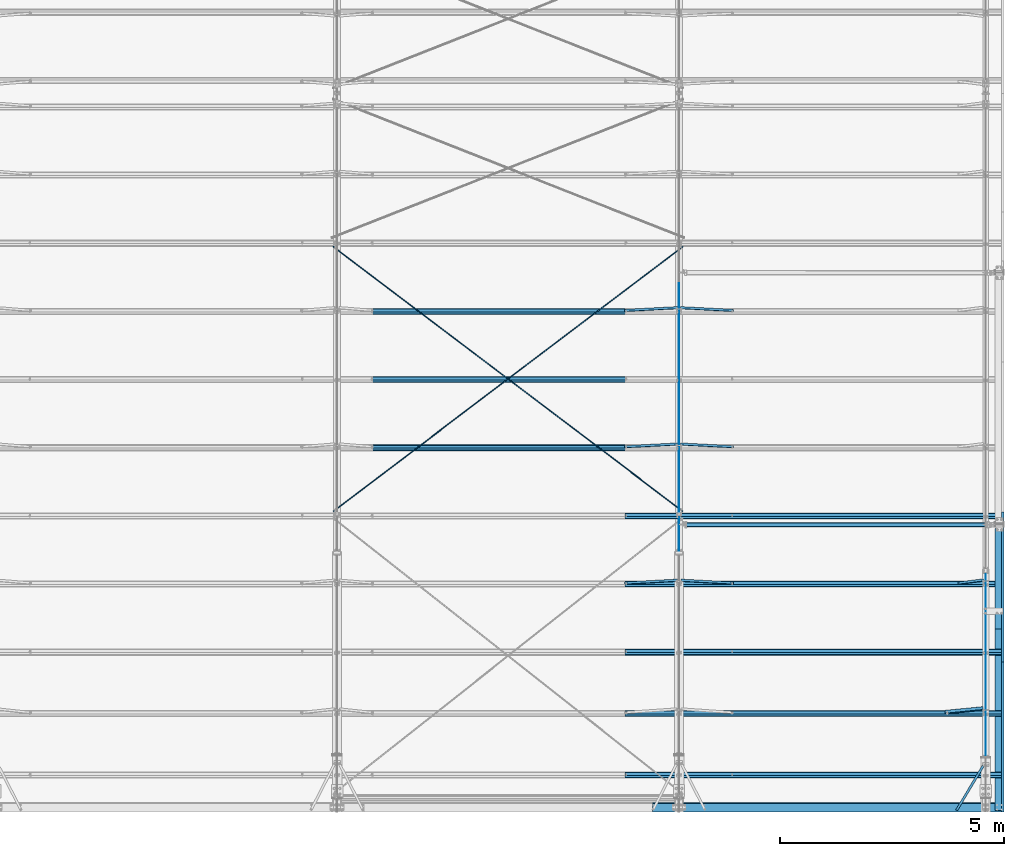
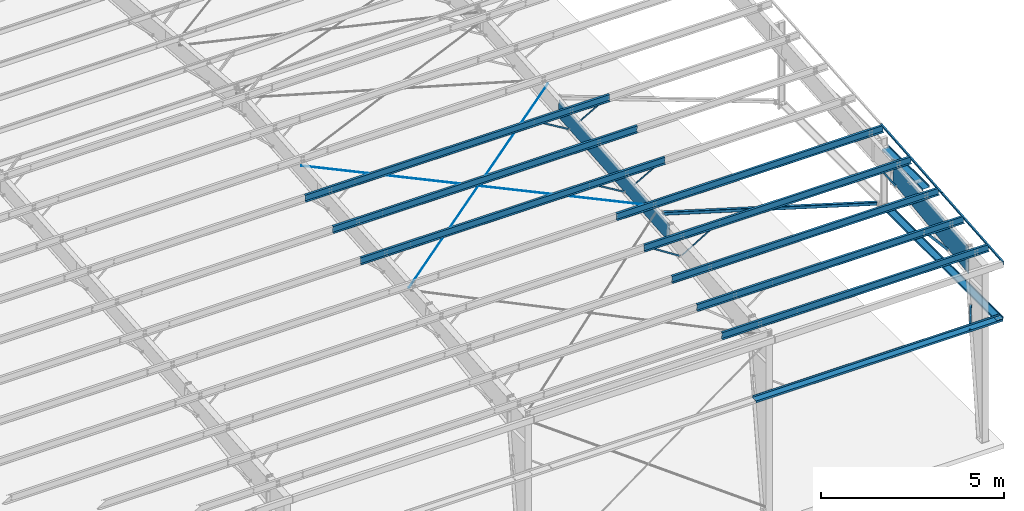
# One storey, part 17 of 185: 19 beams, 8 members, 27 elements without a shape of their own.
"""IFC2X3 building model written with IfcOpenShell, lengths in millimetres."""

from ifc_helpers import new_model, si_unit, frame, origin_with_axes, origin_2d_with_axis, place, context, subcontext, project, spatial, polyline, rectangle, hollow_rectangle, circle, l_section, outline, extrude, clip, halfspace, material, type_object, element, aggregate, save


model = new_model("IFC2X3")

# Units and contexts
model_context = context("Model", 3, precision=1e-05, world=origin_with_axes())
body_context = subcontext(model_context, "Body", "Model", "MODEL_VIEW")
ifc_project = project(units=[si_unit("LENGTHUNIT", "METRE", prefix="MILLI"), si_unit("AREAUNIT", "SQUARE_METRE"), si_unit("VOLUMEUNIT", "CUBIC_METRE"), si_unit("MASSUNIT", "GRAM", prefix="KILO"), si_unit("TIMEUNIT", "SECOND"), si_unit("PLANEANGLEUNIT", "RADIAN"), si_unit("SOLIDANGLEUNIT", "STERADIAN"), si_unit("THERMODYNAMICTEMPERATUREUNIT", "DEGREE_CELSIUS"), si_unit("LUMINOUSINTENSITYUNIT", "LUMEN")], contexts=[model_context])

# Site, building, storey
site_placement = place(None, origin_with_axes())
site = spatial("IfcSite", under=ifc_project, at=site_placement, Name="Undefined", CompositionType="ELEMENT")
building_placement = place(site_placement, origin_with_axes())
building = spatial("IfcBuilding", under=site, at=building_placement, Name="Undefined", CompositionType="ELEMENT")
storey_placement = place(building_placement, origin_with_axes())
storey = spatial("IfcBuildingStorey", under=building, at=storey_placement, Name="Undefined", CompositionType="ELEMENT", Elevation=0.0)

# Assembly, beam
assembly_1_placement = place(storey_placement, origin_with_axes())
assembly_1 = element("IfcElementAssembly", 1, at=assembly_1_placement, inside=storey, Name="Steel Assembly", AssemblyPlace="NOTDEFINED", PredefinedType="RIGID_FRAME")
ifc_material = material(Name="STEEL/55")
beam_type_1 = type_object("IfcBeamType", Name="8Z15", PredefinedType="NOTDEFINED")
beam_1_placement = place(assembly_1_placement, frame((30099.0, 8113.01202030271, 6670.13216896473), z_axis=(0.0, 0.0830454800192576, -0.996545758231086), x_axis=(1.0, 0.0, 0.0)))
beam_1 = element("IfcBeam", 2, at=beam_1_placement, type_object=beam_type_1, material=ifc_material, Name="Purlin", ObjectType="8Z15", context=body_context, shape_type="Clipping", body=[
    clip(clip(extrude(outline(polyline([(-75.75, 87.0100021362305), (-63.5, 101.599998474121), (1.5900000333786, 101.599998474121), (1.5900000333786, -98.4199981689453), (62.0200004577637, -98.4199981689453), (73.3099975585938, -84.9700012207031), (75.7399978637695, -87.0100021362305), (63.5, -101.599998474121), (-1.5900000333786, -101.599998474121), (-1.5900000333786, 98.4199981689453), (-62.0200004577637, 98.4199981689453), (-73.3099975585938, 84.9700012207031), (-75.75, 87.0100021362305)])), frame((8826.5, 0.0, 0.0), z_axis=(-1.0, 0.0, 0.0), x_axis=(0.0, -1.0, 0.0)), (0.0, 0.0, 1.0), 9626.6), halfspace(frame((8826.5, 2.91402102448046e-09, -101.600000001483), z_axis=(-1.0, 0.0, 0.0), x_axis=(0.0, 0.0, 1.0)), True)), halfspace(frame((-800.1, 2.91402102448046e-09, -101.600000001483), z_axis=(-1.0, 0.0, 0.0), x_axis=(0.0, 0.0, 1.0)), False)),
])
aggregate(assembly_1, [beam_1])

assembly_2_placement = place(storey_placement, origin_with_axes())
assembly_2 = element("IfcElementAssembly", 3, at=assembly_2_placement, inside=storey, Name="Steel Assembly", AssemblyPlace="NOTDEFINED", PredefinedType="RIGID_FRAME")
beam_2_placement = place(assembly_2_placement, frame((30099.0, 9631.74775584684, 6796.69348051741), z_axis=(0.0, 0.0830454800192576, -0.996545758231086), x_axis=(1.0, 0.0, 0.0)))
beam_2 = element("IfcBeam", 4, at=beam_2_placement, type_object=beam_type_1, material=ifc_material, Name="Purlin", ObjectType="8Z15", context=body_context, shape_type="Clipping", body=[
    clip(clip(extrude(outline(polyline([(-75.75, 87.0100021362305), (-63.5, 101.599998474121), (1.5900000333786, 101.599998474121), (1.5900000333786, -98.4199981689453), (62.0200004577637, -98.4199981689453), (73.3099975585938, -84.9700012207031), (75.7399978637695, -87.0100021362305), (63.5, -101.599998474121), (-1.5900000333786, -101.599998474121), (-1.5900000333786, 98.4199981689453), (-62.0200004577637, 98.4199981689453), (-73.3099975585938, 84.9700012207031), (-75.75, 87.0100021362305)])), frame((8826.5, 0.0, 0.0), z_axis=(-1.0, 0.0, 0.0), x_axis=(0.0, -1.0, 0.0)), (0.0, 0.0, 1.0), 9626.6), halfspace(frame((8826.5, 2.91402102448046e-09, -101.600000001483), z_axis=(-1.0, 0.0, 0.0), x_axis=(0.0, 0.0, 1.0)), True)), halfspace(frame((-800.1, 2.91402102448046e-09, -101.600000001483), z_axis=(-1.0, 0.0, 0.0), x_axis=(0.0, 0.0, 1.0)), False)),
])
aggregate(assembly_2, [beam_2])

assembly_3_placement = place(storey_placement, origin_with_axes())
assembly_3 = element("IfcElementAssembly", 5, at=assembly_3_placement, inside=storey, Name="Steel Assembly", AssemblyPlace="NOTDEFINED", PredefinedType="RIGID_FRAME")
beam_3_placement = place(assembly_3_placement, frame((30099.0, 11150.483491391, 6923.2547920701), z_axis=(0.0, 0.0830454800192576, -0.996545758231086), x_axis=(1.0, 0.0, 0.0)))
beam_3 = element("IfcBeam", 6, at=beam_3_placement, type_object=beam_type_1, material=ifc_material, Name="Purlin", ObjectType="8Z15", context=body_context, shape_type="Clipping", body=[
    clip(clip(extrude(outline(polyline([(-75.75, 87.0100021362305), (-63.5, 101.599998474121), (1.5900000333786, 101.599998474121), (1.5900000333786, -98.4199981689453), (62.0200004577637, -98.4199981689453), (73.3099975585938, -84.9700012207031), (75.7399978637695, -87.0100021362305), (63.5, -101.599998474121), (-1.5900000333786, -101.599998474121), (-1.5900000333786, 98.4199981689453), (-62.0200004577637, 98.4199981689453), (-73.3099975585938, 84.9700012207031), (-75.75, 87.0100021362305)])), frame((8826.5, 0.0, 0.0), z_axis=(-1.0, 0.0, 0.0), x_axis=(0.0, -1.0, 0.0)), (0.0, 0.0, 1.0), 9626.6), halfspace(frame((8826.5, 2.91402102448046e-09, -101.600000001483), z_axis=(-1.0, 0.0, 0.0), x_axis=(0.0, 0.0, 1.0)), True)), halfspace(frame((-800.1, 2.91402102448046e-09, -101.600000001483), z_axis=(-1.0, 0.0, 0.0), x_axis=(0.0, 0.0, 1.0)), False)),
])
aggregate(assembly_3, [beam_3])

assembly_4_placement = place(storey_placement, origin_with_axes())
assembly_4 = element("IfcElementAssembly", 7, at=assembly_4_placement, inside=storey, Name="Steel Assembly", AssemblyPlace="NOTDEFINED", PredefinedType="RIGID_FRAME")
beam_type_2 = type_object("IfcBeamType", Name="HSS4X4X1/4", PredefinedType="NOTDEFINED")
beam_4_placement = place(assembly_4_placement, frame((44607.9887283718, 6397.62500009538, 4282.83984571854), z_axis=(0.287551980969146, 0.0, 0.957765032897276), x_axis=(-0.957765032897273, 0.0, 0.287551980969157)))
beam_4 = element("IfcBeam", 8, at=beam_4_placement, type_object=beam_type_2, material=ifc_material, Name="PIPE", ObjectType="HSS4X4X1/4", context=body_context, shape_type="SweptSolid", body=[
    extrude(hollow_rectangle(XDim=101.6, YDim=101.6, WallThickness=6.35, InnerFilletRadius=6.3499, OuterFilletRadius=12.6999, at=origin_2d_with_axis()), frame((7034.3103877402, 9.09494701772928e-13, 0.0), z_axis=(-1.0, 0.0, 0.0), x_axis=(0.0, -1.0, 0.0)), (0.0, 0.0, 1.0), 7034.3),
])
aggregate(assembly_4, [beam_4])

assembly_5_placement = place(storey_placement, origin_with_axes())
assembly_5 = element("IfcElementAssembly", 9, at=assembly_5_placement, inside=storey, Name="Steel Assembly", AssemblyPlace="NOTDEFINED", PredefinedType="RIGID_FRAME")
beam_type_3 = type_object("IfcBeamType", Name="FB-", PredefinedType="NOTDEFINED")
beam_5_placement = place(assembly_5_placement, frame((44539.605493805, 1048.90286488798, 4163.6494642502), z_axis=(-0.858185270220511, 0.513340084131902, 0.0), x_axis=(-0.513340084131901, -0.858185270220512, 0.0)))
beam_5 = element("IfcBeam", 10, at=beam_5_placement, type_object=beam_type_3, material=ifc_material, Name="2X2 FLANGE BRACE X 60", ObjectType="FB-", context=body_context, shape_type="SweptSolid", body=[
    extrude(outline(polyline([(1.5900000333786, 1.59000003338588), (50.7999992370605, 1.59000003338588), (50.7999992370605, 7.27595761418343e-12), (0.0, 0.0), (0.0, 50.7999992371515), (1.5900000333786, 50.7999992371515), (1.5900000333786, 1.59000003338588)])), frame((1196.56821064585, 0.0, 0.0), z_axis=(-1.0, 0.0, 0.0), x_axis=(0.0, -1.0, 0.0)), (0.0, 0.0, 1.0), 1196.6),
])
aggregate(assembly_5, [beam_5])

assembly_6_placement = place(storey_placement, origin_with_axes())
assembly_6 = element("IfcElementAssembly", 11, at=assembly_6_placement, inside=storey, Name="Steel Assembly", AssemblyPlace="NOTDEFINED", PredefinedType="RIGID_FRAME")
beam_type_4 = type_object("IfcBeamType", Name="8Z16", PredefinedType="NOTDEFINED")
beam_6_placement = place(assembly_6_placement, frame((44856.4, 4064.0, 6096.0), z_axis=(-1.0, 0.0, 0.0), x_axis=(0.0, 1.0, 0.0)))
beam_6 = element("IfcBeam", 12, at=beam_6_placement, type_object=beam_type_4, material=ifc_material, Name="Girt", ObjectType="8Z16", context=body_context, shape_type="Clipping", body=[
    clip(clip(extrude(outline(polyline([(73.3099975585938, -84.9700012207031), (75.7399978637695, -87.0100021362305), (63.5, -101.599998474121), (-1.5900000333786, -101.599998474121), (-1.5900000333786, 98.4199981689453), (-62.0200004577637, 98.4199981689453), (-73.3099975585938, 84.9700012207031), (-75.75, 87.0100021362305), (-63.5, 101.599998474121), (1.5900000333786, 101.599998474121), (1.5900000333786, -98.4199981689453), (62.0200004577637, -98.4199981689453), (73.3099975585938, -84.9700012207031)])), frame((2336.7998046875, 0.0, 0.0), z_axis=(-1.0, 0.0, 0.0), x_axis=(0.0, -1.0, 0.0)), (0.0, 0.0, 1.0), 2324.1), halfspace(frame((2247.90000000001, -74.5286799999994, -101.599999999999), z_axis=(1.0, 0.0, 0.0), x_axis=(0.0, 0.0, 1.0)), False)), halfspace(frame((12.6999999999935, 0.0, -101.599693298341), z_axis=(-1.0, 0.0, 0.0), x_axis=(0.0, 1.0, 0.0)), False)),
])
aggregate(assembly_6, [beam_6])

assembly_7_placement = place(storey_placement, origin_with_axes())
assembly_7 = element("IfcElementAssembly", 13, at=assembly_7_placement, inside=storey, Name="Steel Assembly", AssemblyPlace="NOTDEFINED", PredefinedType="RIGID_FRAME")
beam_7_placement = place(assembly_7_placement, frame((44932.6, 101.6, 4165.6), z_axis=(0.0, 1.0, 0.0), x_axis=(-1.0, 0.0, 0.0)))
beam_7 = element("IfcBeam", 14, at=beam_7_placement, type_object=beam_type_4, material=ifc_material, Name="Girt", ObjectType="8Z16", context=body_context, shape_type="Clipping", body=[
    clip(extrude(outline(polyline([(73.3099975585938, -84.9700012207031), (75.7399978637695, -87.0100021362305), (63.5, -101.599998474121), (-1.5900000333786, -101.599998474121), (-1.5900000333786, 98.4199981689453), (-62.0200004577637, 98.4199981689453), (-73.3099975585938, 84.9700012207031), (-75.75, 87.0100021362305), (-63.5, 101.599998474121), (1.5900000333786, 101.599998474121), (1.5900000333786, -98.4199981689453), (62.0200004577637, -98.4199981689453), (73.3099975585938, -84.9700012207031)])), frame((7810.5, 0.0, 0.0), z_axis=(-1.0, 0.0, 0.0), x_axis=(0.0, -1.0, 0.0)), (0.0, 0.0, 1.0), 7810.5), halfspace(frame((7810.5, 0.0, -101.6), z_axis=(-1.0, 0.0, 0.0), x_axis=(0.0, -1.0, 0.0)), True)),
])
aggregate(assembly_7, [beam_7])

# Assembly, member
assembly_8_placement = place(storey_placement, origin_with_axes())
assembly_8 = element("IfcElementAssembly", 15, at=assembly_8_placement, inside=storey, Name="Steel Assembly", AssemblyPlace="NOTDEFINED", PredefinedType="RIGID_FRAME")
member_type_1 = type_object("IfcMemberType", Name="FB-", PredefinedType="NOTDEFINED")
member_1_placement = place(assembly_8_placement, frame((37680.9126795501, 11208.1027534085, 6231.82364778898), z_axis=(0.530152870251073, -0.070414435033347, 0.844973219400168), x_axis=(-0.847902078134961, -0.0440268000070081, 0.528321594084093)))
member_1 = element("IfcMember", 16, at=member_1_placement, type_object=member_type_1, material=ifc_material, Name="2X2 FLANGE BRACE X 48", ObjectType="FB-", context=body_context, shape_type="SweptSolid", body=[
    extrude(outline(polyline([(1.5900000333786, 1.59000003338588), (50.7999992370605, 1.59000003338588), (50.7999992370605, 7.27595761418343e-12), (0.0, 0.0), (0.0, 50.7999992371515), (1.5900000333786, 50.7999992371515), (1.5900000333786, 1.59000003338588)])), frame((1389.32938756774, -1.81898940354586e-12, 7.71232737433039e-14), z_axis=(-1.0, 0.0, 0.0), x_axis=(0.0, -1.0, 0.0)), (0.0, 0.0, 1.0), 1389.3),
])
aggregate(assembly_8, [member_1])

assembly_9_placement = place(storey_placement, origin_with_axes())
assembly_9 = element("IfcElementAssembly", 17, at=assembly_9_placement, inside=storey, Name="Steel Assembly", AssemblyPlace="NOTDEFINED", PredefinedType="RIGID_FRAME")
member_2_placement = place(assembly_9_placement, frame((37680.9126795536, 8170.63128227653, 5978.70102517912), z_axis=(0.530152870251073, -0.070414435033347, 0.844973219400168), x_axis=(-0.847902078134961, -0.0440268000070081, 0.528321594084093)))
member_2 = element("IfcMember", 18, at=member_2_placement, type_object=member_type_1, material=ifc_material, Name="2X2 FLANGE BRACE X 48", ObjectType="FB-", context=body_context, shape_type="SweptSolid", body=[
    extrude(outline(polyline([(1.5900000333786, 1.59000003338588), (50.7999992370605, 1.59000003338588), (50.7999992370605, 7.27595761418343e-12), (0.0, 0.0), (0.0, 50.7999992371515), (1.5900000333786, 50.7999992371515), (1.5900000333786, 1.59000003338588)])), frame((1389.32938756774, -1.81898940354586e-12, 7.71232737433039e-14), z_axis=(-1.0, 0.0, 0.0), x_axis=(0.0, -1.0, 0.0)), (0.0, 0.0, 1.0), 1389.3),
])
aggregate(assembly_9, [member_2])

assembly_10_placement = place(storey_placement, origin_with_axes())
assembly_10 = element("IfcElementAssembly", 19, at=assembly_10_placement, inside=storey, Name="Steel Assembly", AssemblyPlace="NOTDEFINED", PredefinedType="RIGID_FRAME")
member_3_placement = place(assembly_10_placement, frame((44497.4139306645, 5142.47605000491, 5613.78353608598), z_axis=(0.836906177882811, -0.045454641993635, 0.545455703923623), x_axis=(-0.547346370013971, -0.0695012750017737, 0.834015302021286)))
member_3 = element("IfcMember", 20, at=member_3_placement, type_object=member_type_1, material=ifc_material, Name="2X2 FLANGE BRACE X 48", ObjectType="FB-", context=body_context, shape_type="SweptSolid", body=[
    extrude(outline(polyline([(1.5900000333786, 1.59000003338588), (50.7999992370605, 1.59000003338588), (50.7999992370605, 7.27595761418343e-12), (0.0, 0.0), (0.0, 50.7999992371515), (1.5900000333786, 50.7999992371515), (1.5900000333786, 1.59000003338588)])), frame((1032.57092025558, -6.26704952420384e-13, -9.09494701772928e-13), z_axis=(-1.0, 0.0, 0.0), x_axis=(0.0, -1.0, 0.0)), (0.0, 0.0, 1.0), 1032.6),
])
aggregate(assembly_10, [member_3])

assembly_11_placement = place(storey_placement, origin_with_axes())
assembly_11 = element("IfcElementAssembly", 21, at=assembly_11_placement, inside=storey, Name="Steel Assembly", AssemblyPlace="NOTDEFINED", PredefinedType="RIGID_FRAME")
member_4_placement = place(assembly_11_placement, frame((37679.2693687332, 5136.82846064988, 5681.55460828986), z_axis=(0.553384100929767, -0.0691707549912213, 0.830049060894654), x_axis=(-0.832926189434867, -0.0459560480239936, 0.551472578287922)))
member_4 = element("IfcMember", 22, at=member_4_placement, type_object=member_type_1, material=ifc_material, Name="2X2 FLANGE BRACE X 48", ObjectType="FB-", context=body_context, shape_type="SweptSolid", body=[
    extrude(outline(polyline([(1.5900000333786, 1.59000003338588), (50.7999992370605, 1.59000003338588), (50.7999992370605, 7.27595761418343e-12), (0.0, 0.0), (0.0, 50.7999992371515), (1.5900000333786, 50.7999992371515), (1.5900000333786, 1.59000003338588)])), frame((1412.58813181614, 9.09494701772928e-13, -7.8414393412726e-14), z_axis=(-1.0, 0.0, 0.0), x_axis=(0.0, -1.0, 0.0)), (0.0, 0.0, 1.0), 1412.6),
])
aggregate(assembly_11, [member_4])

assembly_12_placement = place(storey_placement, origin_with_axes())
assembly_12 = element("IfcElementAssembly", 23, at=assembly_12_placement, inside=storey, Name="Steel Assembly", AssemblyPlace="NOTDEFINED", PredefinedType="RIGID_FRAME")
member_5_placement = place(assembly_12_placement, frame((37758.7306312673, 5136.8284606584, 5681.55460828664), z_axis=(0.0, 0.996545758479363, 0.0830454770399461), x_axis=(0.832926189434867, -0.0459560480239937, 0.551472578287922)))
member_5 = element("IfcMember", 24, at=member_5_placement, type_object=member_type_1, material=ifc_material, Name="2X2 FLANGE BRACE X 48", ObjectType="FB-", context=body_context, shape_type="SweptSolid", body=[
    extrude(outline(polyline([(1.5900000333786, 1.59000003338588), (50.7999992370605, 1.59000003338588), (50.7999992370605, 7.27595761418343e-12), (0.0, 0.0), (0.0, 50.7999992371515), (1.5900000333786, 50.7999992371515), (1.5900000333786, 1.59000003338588)])), frame((1412.58813181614, 9.09494701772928e-13, -7.8414393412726e-14), z_axis=(-1.0, 0.0, 0.0), x_axis=(0.0, -1.0, 0.0)), (0.0, 0.0, 1.0), 1412.6),
])
aggregate(assembly_12, [member_5])

assembly_13_placement = place(storey_placement, origin_with_axes())
assembly_13 = element("IfcElementAssembly", 25, at=assembly_13_placement, inside=storey, Name="Steel Assembly", AssemblyPlace="NOTDEFINED", PredefinedType="RIGID_FRAME")
member_6_placement = place(assembly_13_placement, frame((37757.0873204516, 11208.1027534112, 6231.82364778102), z_axis=(0.0, 0.996545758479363, 0.0830454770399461), x_axis=(0.847902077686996, -0.044026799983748, 0.528321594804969)))
member_6 = element("IfcMember", 26, at=member_6_placement, type_object=member_type_1, material=ifc_material, Name="2X2 FLANGE BRACE X 48", ObjectType="FB-", context=body_context, shape_type="SweptSolid", body=[
    extrude(outline(polyline([(1.5900000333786, 1.59000003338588), (50.7999992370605, 1.59000003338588), (50.7999992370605, 7.27595761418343e-12), (0.0, 0.0), (0.0, 50.7999992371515), (1.5900000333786, 50.7999992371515), (1.5900000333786, 1.59000003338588)])), frame((1389.32938756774, -1.81898940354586e-12, 7.71232737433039e-14), z_axis=(-1.0, 0.0, 0.0), x_axis=(0.0, -1.0, 0.0)), (0.0, 0.0, 1.0), 1389.3),
])
aggregate(assembly_13, [member_6])

assembly_14_placement = place(storey_placement, origin_with_axes())
assembly_14 = element("IfcElementAssembly", 27, at=assembly_14_placement, inside=storey, Name="Steel Assembly", AssemblyPlace="NOTDEFINED", PredefinedType="RIGID_FRAME")
member_7_placement = place(assembly_14_placement, frame((37757.0873204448, 8170.63128228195, 5978.7010251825), z_axis=(0.0, 0.996545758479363, 0.0830454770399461), x_axis=(0.847902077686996, -0.044026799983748, 0.528321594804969)))
member_7 = element("IfcMember", 28, at=member_7_placement, type_object=member_type_1, material=ifc_material, Name="2X2 FLANGE BRACE X 48", ObjectType="FB-", context=body_context, shape_type="SweptSolid", body=[
    extrude(outline(polyline([(1.5900000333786, 1.59000003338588), (50.7999992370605, 1.59000003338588), (50.7999992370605, 7.27595761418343e-12), (0.0, 0.0), (0.0, 50.7999992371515), (1.5900000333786, 50.7999992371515), (1.5900000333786, 1.59000003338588)])), frame((1389.32938756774, -1.81898940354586e-12, 7.71232737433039e-14), z_axis=(-1.0, 0.0, 0.0), x_axis=(0.0, -1.0, 0.0)), (0.0, 0.0, 1.0), 1389.3),
])
aggregate(assembly_14, [member_7])

# Assembly, beam
assembly_15_placement = place(storey_placement, origin_with_axes())
assembly_15 = element("IfcElementAssembly", 29, at=assembly_15_placement, inside=storey, Name="Steel Assembly", AssemblyPlace="NOTDEFINED", PredefinedType="RIGID_FRAME")
beam_type_5 = type_object("IfcBeamType", Name="RA-1", PredefinedType="NOTDEFINED")
beam_8_placement = place(assembly_15_placement, frame((44958.0, 3341.27766252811, 6373.72645922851), z_axis=(0.0, 0.0830701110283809, -0.99654370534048), x_axis=(0.0, 0.99654370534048, 0.0830701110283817)))
beam_8 = element("IfcBeam", 30, at=beam_8_placement, type_object=beam_type_5, material=ifc_material, Name="STANDARD RAKE ANGLE", ObjectType="RA-1", context=body_context, shape_type="SweptSolid", body=[
    extrude(outline(polyline([(0.0, 0.0), (50.7999992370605, 7.27595761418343e-12), (50.7999992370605, -1.51999998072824), (-1.51999998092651, -1.51999998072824), (-1.51999998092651, 127.000000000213), (0.0, 127.000000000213), (0.0, 0.0)])), frame((3352.80000002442, 0.0, -1.86551885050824e-12), z_axis=(-1.0, 0.0, 0.0), x_axis=(0.0, -1.0, 0.0)), (0.0, 0.0, 1.0), 3352.8),
])
aggregate(assembly_15, [beam_8])

assembly_16_placement = place(storey_placement, origin_with_axes())
assembly_16 = element("IfcElementAssembly", 31, at=assembly_16_placement, inside=storey, Name="Steel Assembly", AssemblyPlace="NOTDEFINED", PredefinedType="RIGID_FRAME")
beam_9_placement = place(assembly_16_placement, frame((44958.0, 0.0659271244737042, 6095.20899262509), z_axis=(0.0, 0.0830701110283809, -0.99654370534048), x_axis=(0.0, 0.99654370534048, 0.0830701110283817)))
beam_9 = element("IfcBeam", 32, at=beam_9_placement, type_object=beam_type_5, material=ifc_material, Name="STANDARD RAKE ANGLE", ObjectType="RA-1", context=body_context, shape_type="SweptSolid", body=[
    extrude(outline(polyline([(0.0, 0.0), (50.7999992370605, 7.27595761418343e-12), (50.7999992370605, -1.51999998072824), (-1.51999998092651, -1.51999998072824), (-1.51999998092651, 127.000000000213), (0.0, 127.000000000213), (0.0, 0.0)])), frame((3352.80000002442, 0.0, -1.86551885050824e-12), z_axis=(-1.0, 0.0, 0.0), x_axis=(0.0, -1.0, 0.0)), (0.0, 0.0, 1.0), 3352.8),
])
aggregate(assembly_16, [beam_9])

# Assembly, member
assembly_17_placement = place(storey_placement, origin_with_axes())
assembly_17 = element("IfcElementAssembly", 33, at=assembly_17_placement, inside=storey, Name="Steel Assembly", AssemblyPlace="NOTDEFINED", PredefinedType="RIGID_FRAME")
member_type_2 = type_object("IfcMemberType", Name="L3X3X1/4", PredefinedType="NOTDEFINED")
member_8_placement = place(assembly_17_placement, frame((44516.2771463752, 2305.48146257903, 5248.86207641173), z_axis=(0.764786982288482, -0.0535048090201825, 0.64205771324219), x_axis=(-0.644283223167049, -0.0635121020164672, 0.762145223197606)))
member_8 = element("IfcMember", 34, at=member_8_placement, type_object=member_type_2, material=ifc_material, Name="MISC STRUCTURAL ANGLE", ObjectType="L3X3X1/4", context=body_context, shape_type="SweptSolid", body=[
    extrude(l_section(Depth=76.2, Width=76.2, Thickness=6.35, FilletRadius=9.525, at=origin_2d_with_axis()), frame((1307.82287484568, 7.2598753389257e-14, 4.3659766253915e-13), z_axis=(-1.0, 0.0, 0.0), x_axis=(0.0, -1.0, 0.0)), (0.0, 0.0, 1.0), 1307.8),
])
aggregate(assembly_17, [member_8])

# Assembly, beam
assembly_18_placement = place(storey_placement, origin_with_axes())
assembly_18 = element("IfcElementAssembly", 35, at=assembly_18_placement, inside=storey, Name="Steel Assembly", AssemblyPlace="NOTDEFINED", PredefinedType="RIGID_FRAME")
beam_type_6 = type_object("IfcBeamType", Name="RB3/4\"", PredefinedType="NOTDEFINED")
beam_10_placement = place(assembly_18_placement, frame((30018.1099223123, 6698.19712904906, 6391.32492276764), z_axis=(-0.0378644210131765, -0.0332332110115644, 0.998730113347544), x_axis=(0.796162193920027, 0.602993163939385, 0.0502494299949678)))
beam_10 = element("IfcBeam", 36, at=beam_10_placement, type_object=beam_type_6, material=ifc_material, Name="ROD BRACE - 3/4", ObjectType="RB3/4\"", context=body_context, shape_type="SweptSolid", body=[
    extrude(circle(Radius=9.525, at=origin_2d_with_axis()), frame((9778.87663663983, 8.40844943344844e-13, -9.09494701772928e-13), z_axis=(-1.0, 0.0, 0.0), x_axis=(0.0, -1.0, 0.0)), (0.0, 0.0, 1.0), 9778.9),
])
aggregate(assembly_18, [beam_10])

assembly_19_placement = place(storey_placement, origin_with_axes())
assembly_19 = element("IfcElementAssembly", 37, at=assembly_19_placement, inside=storey, Name="Steel Assembly", AssemblyPlace="NOTDEFINED", PredefinedType="RIGID_FRAME")
beam_11_placement = place(assembly_19_placement, frame((37799.8900776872, 6698.1971290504, 6391.32492275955), z_axis=(0.0378627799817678, -0.0332353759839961, 0.998730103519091), x_axis=(-0.796162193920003, 0.602993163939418, 0.0502494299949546)))
beam_11 = element("IfcBeam", 38, at=beam_11_placement, type_object=beam_type_6, material=ifc_material, Name="ROD BRACE - 3/4", ObjectType="RB3/4\"", context=body_context, shape_type="SweptSolid", body=[
    extrude(circle(Radius=9.525, at=origin_2d_with_axis()), frame((9778.87663663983, 8.40844943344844e-13, -9.09494701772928e-13), z_axis=(-1.0, 0.0, 0.0), x_axis=(0.0, -1.0, 0.0)), (0.0, 0.0, 1.0), 9778.9),
])
aggregate(assembly_19, [beam_11])

assembly_20_placement = place(storey_placement, origin_with_axes())
assembly_20 = element("IfcElementAssembly", 39, at=assembly_20_placement, inside=storey, Name="Steel Assembly", AssemblyPlace="NOTDEFINED", PredefinedType="RIGID_FRAME")
beam_type_7 = type_object("IfcBeamType", Name="8Z13", PredefinedType="NOTDEFINED")
beam_12_placement = place(assembly_20_placement, frame((37719.0, 823.080489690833, 6062.63787351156), z_axis=(0.0, 0.0830454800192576, -0.996545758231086), x_axis=(1.0, 0.0, 0.0)))
beam_12 = element("IfcBeam", 40, at=beam_12_placement, type_object=beam_type_7, material=ifc_material, Name="Purlin", ObjectType="8Z13", context=body_context, shape_type="Clipping", body=[
    clip(clip(extrude(outline(polyline([(-62.0200004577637, 98.4199981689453), (-73.3099975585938, 84.9700012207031), (-75.75, 87.0100021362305), (-63.5, 101.599998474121), (1.5900000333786, 101.599998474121), (1.5900000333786, -98.4199981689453), (62.0200004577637, -98.4199981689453), (73.3099975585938, -84.9700012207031), (75.7399978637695, -87.0100021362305), (63.5, -101.599998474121), (-1.5900000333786, -101.599998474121), (-1.5900000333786, 98.4199981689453), (-62.0200004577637, 98.4199981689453)])), frame((7226.3, 0.0, 0.0), z_axis=(-1.0, 0.0, 0.0), x_axis=(0.0, -1.0, 0.0)), (0.0, 0.0, 1.0), 8432.8), halfspace(frame((7226.3, 2.91402102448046e-09, -101.600000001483), z_axis=(-1.0, 0.0, 0.0), x_axis=(0.0, 0.0, -1.0)), True)), halfspace(frame((-1206.5, 2.91402102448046e-09, -101.600000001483), z_axis=(-1.0, 0.0, 0.0), x_axis=(0.0, 0.0, 1.0)), False)),
])
aggregate(assembly_20, [beam_12])

assembly_21_placement = place(storey_placement, origin_with_axes())
assembly_21 = element("IfcElementAssembly", 41, at=assembly_21_placement, inside=storey, Name="Steel Assembly", AssemblyPlace="NOTDEFINED", PredefinedType="RIGID_FRAME")
beam_13_placement = place(assembly_21_placement, frame((37719.0, 2189.94265168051, 6176.54305390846), z_axis=(0.0, 0.0830454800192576, -0.996545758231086), x_axis=(1.0, 0.0, 0.0)))
beam_13 = element("IfcBeam", 42, at=beam_13_placement, type_object=beam_type_7, material=ifc_material, Name="Purlin", ObjectType="8Z13", context=body_context, shape_type="Clipping", body=[
    clip(clip(extrude(outline(polyline([(-62.0200004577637, 98.4199981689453), (-73.3099975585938, 84.9700012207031), (-75.75, 87.0100021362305), (-63.5, 101.599998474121), (1.5900000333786, 101.599998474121), (1.5900000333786, -98.4199981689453), (62.0200004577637, -98.4199981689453), (73.3099975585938, -84.9700012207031), (75.7399978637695, -87.0100021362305), (63.5, -101.599998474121), (-1.5900000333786, -101.599998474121), (-1.5900000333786, 98.4199981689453), (-62.0200004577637, 98.4199981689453)])), frame((7226.3, 0.0, 0.0), z_axis=(-1.0, 0.0, 0.0), x_axis=(0.0, -1.0, 0.0)), (0.0, 0.0, 1.0), 8432.8), halfspace(frame((7226.3, 2.91402102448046e-09, -101.600000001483), z_axis=(-1.0, 0.0, 0.0), x_axis=(0.0, 0.0, -1.0)), True)), halfspace(frame((-1206.5, 2.91402102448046e-09, -101.600000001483), z_axis=(-1.0, 0.0, 0.0), x_axis=(0.0, 0.0, 1.0)), False)),
])
aggregate(assembly_21, [beam_13])

assembly_22_placement = place(storey_placement, origin_with_axes())
assembly_22 = element("IfcElementAssembly", 43, at=assembly_22_placement, inside=storey, Name="Steel Assembly", AssemblyPlace="NOTDEFINED", PredefinedType="RIGID_FRAME")
beam_14_placement = place(assembly_22_placement, frame((37719.0, 3556.80481367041, 6290.44823430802), z_axis=(0.0, 0.0830454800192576, -0.996545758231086), x_axis=(1.0, 0.0, 0.0)))
beam_14 = element("IfcBeam", 44, at=beam_14_placement, type_object=beam_type_7, material=ifc_material, Name="Purlin", ObjectType="8Z13", context=body_context, shape_type="Clipping", body=[
    clip(clip(extrude(outline(polyline([(-62.0200004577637, 98.4199981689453), (-73.3099975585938, 84.9700012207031), (-75.75, 87.0100021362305), (-63.5, 101.599998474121), (1.5900000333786, 101.599998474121), (1.5900000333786, -98.4199981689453), (62.0200004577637, -98.4199981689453), (73.3099975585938, -84.9700012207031), (75.7399978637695, -87.0100021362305), (63.5, -101.599998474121), (-1.5900000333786, -101.599998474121), (-1.5900000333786, 98.4199981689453), (-62.0200004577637, 98.4199981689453)])), frame((7226.3, 0.0, 0.0), z_axis=(-1.0, 0.0, 0.0), x_axis=(0.0, -1.0, 0.0)), (0.0, 0.0, 1.0), 8432.8), halfspace(frame((7226.3, 2.91402102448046e-09, -101.600000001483), z_axis=(-1.0, 0.0, 0.0), x_axis=(0.0, 0.0, -1.0)), True)), halfspace(frame((-1206.5, 2.91402102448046e-09, -101.600000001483), z_axis=(-1.0, 0.0, 0.0), x_axis=(0.0, 0.0, 1.0)), False)),
])
aggregate(assembly_22, [beam_14])

assembly_23_placement = place(storey_placement, origin_with_axes())
assembly_23 = element("IfcElementAssembly", 45, at=assembly_23_placement, inside=storey, Name="Steel Assembly", AssemblyPlace="NOTDEFINED", PredefinedType="RIGID_FRAME")
beam_15_placement = place(assembly_23_placement, frame((37719.0, 5075.54054921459, 6417.00954586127), z_axis=(0.0, 0.0830454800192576, -0.996545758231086), x_axis=(1.0, 0.0, 0.0)))
beam_15 = element("IfcBeam", 46, at=beam_15_placement, type_object=beam_type_7, material=ifc_material, Name="Purlin", ObjectType="8Z13", context=body_context, shape_type="Clipping", body=[
    clip(clip(extrude(outline(polyline([(-62.0200004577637, 98.4199981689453), (-73.3099975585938, 84.9700012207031), (-75.75, 87.0100021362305), (-63.5, 101.599998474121), (1.5900000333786, 101.599998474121), (1.5900000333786, -98.4199981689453), (62.0200004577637, -98.4199981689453), (73.3099975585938, -84.9700012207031), (75.7399978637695, -87.0100021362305), (63.5, -101.599998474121), (-1.5900000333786, -101.599998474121), (-1.5900000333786, 98.4199981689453), (-62.0200004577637, 98.4199981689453)])), frame((7226.3, 0.0, 0.0), z_axis=(-1.0, 0.0, 0.0), x_axis=(0.0, -1.0, 0.0)), (0.0, 0.0, 1.0), 8432.8), halfspace(frame((7226.3, 2.91402102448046e-09, -101.600000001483), z_axis=(-1.0, 0.0, 0.0), x_axis=(0.0, 0.0, -1.0)), True)), halfspace(frame((-1206.5, 2.91402102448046e-09, -101.600000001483), z_axis=(-1.0, 0.0, 0.0), x_axis=(0.0, 0.0, 1.0)), False)),
])
aggregate(assembly_23, [beam_15])

assembly_24_placement = place(storey_placement, origin_with_axes())
assembly_24 = element("IfcElementAssembly", 47, at=assembly_24_placement, inside=storey, Name="Steel Assembly", AssemblyPlace="NOTDEFINED", PredefinedType="RIGID_FRAME")
beam_16_placement = place(assembly_24_placement, frame((37719.0, 6594.27628475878, 6543.57085741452), z_axis=(0.0, 0.0830454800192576, -0.996545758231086), x_axis=(1.0, 0.0, 0.0)))
beam_16 = element("IfcBeam", 48, at=beam_16_placement, type_object=beam_type_7, material=ifc_material, Name="Purlin", ObjectType="8Z13", context=body_context, shape_type="Clipping", body=[
    clip(clip(extrude(outline(polyline([(-62.0200004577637, 98.4199981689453), (-73.3099975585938, 84.9700012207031), (-75.75, 87.0100021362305), (-63.5, 101.599998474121), (1.5900000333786, 101.599998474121), (1.5900000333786, -98.4199981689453), (62.0200004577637, -98.4199981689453), (73.3099975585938, -84.9700012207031), (75.7399978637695, -87.0100021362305), (63.5, -101.599998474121), (-1.5900000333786, -101.599998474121), (-1.5900000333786, 98.4199981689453), (-62.0200004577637, 98.4199981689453)])), frame((7226.3, 0.0, 0.0), z_axis=(-1.0, 0.0, 0.0), x_axis=(0.0, -1.0, 0.0)), (0.0, 0.0, 1.0), 8432.8), halfspace(frame((7226.3, 2.91402102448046e-09, -101.600000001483), z_axis=(-1.0, 0.0, 0.0), x_axis=(0.0, 0.0, -1.0)), True)), halfspace(frame((-1206.5, 2.91402102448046e-09, -101.600000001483), z_axis=(-1.0, 0.0, 0.0), x_axis=(0.0, 0.0, 1.0)), False)),
])
aggregate(assembly_24, [beam_16])

assembly_25_placement = place(storey_placement, origin_with_axes())
assembly_25 = element("IfcElementAssembly", 49, at=assembly_25_placement, inside=storey, Name="Steel Assembly", AssemblyPlace="NOTDEFINED", PredefinedType="RIGID_FRAME")
beam_17_placement = place(assembly_25_placement, frame((44856.4, 0.0, 4165.6), z_axis=(-1.0, 0.0, 0.0), x_axis=(0.0, 1.0, 0.0)))
beam_17 = element("IfcBeam", 50, at=beam_17_placement, type_object=beam_type_7, material=ifc_material, Name="Girt", ObjectType="8Z13", context=body_context, shape_type="Clipping", body=[
    clip(clip(extrude(outline(polyline([(-62.0200004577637, 98.4199981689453), (-73.3099975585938, 84.9700012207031), (-75.75, 87.0100021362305), (-63.5, 101.599998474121), (1.5900000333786, 101.599998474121), (1.5900000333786, -98.4199981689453), (62.0200004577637, -98.4199981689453), (73.3099975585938, -84.9700012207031), (75.7399978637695, -87.0100021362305), (63.5, -101.599998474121), (-1.5900000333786, -101.599998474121), (-1.5900000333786, 98.4199981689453), (-62.0200004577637, 98.4199981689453)])), frame((6400.7998046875, 0.0, 0.0), z_axis=(-1.0, 0.0, 0.0), x_axis=(0.0, -1.0, 0.0)), (0.0, 0.0, 1.0), 6375.4), halfspace(frame((6311.90000000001, -74.5286800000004, -101.599999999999), z_axis=(1.0, 0.0, 0.0), x_axis=(0.0, 0.0, 1.0)), False)), halfspace(frame((25.4000000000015, 0.0, -101.6), z_axis=(1.0, 0.0, 0.0), x_axis=(0.0, -1.0, 0.0)), True)),
])
aggregate(assembly_25, [beam_17])

assembly_26_placement = place(storey_placement, origin_with_axes())
assembly_26 = element("IfcElementAssembly", 51, at=assembly_26_placement, inside=storey, Name="Steel Assembly", AssemblyPlace="NOTDEFINED", PredefinedType="RIGID_FRAME")
beam_type_8 = type_object("IfcBeamType", Name="PL3/16\"X36\"", PredefinedType="NOTDEFINED")
beam_18_placement = place(assembly_26_placement, frame((44551.6, 1187.60724048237, 5526.28205770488), z_axis=(0.0, -0.0830454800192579, 0.996545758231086), x_axis=(0.0, 0.996545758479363, 0.0830454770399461)))
beam_18 = element("IfcBeam", 52, at=beam_18_placement, type_object=beam_type_8, material=ifc_material, Name="Web", ObjectType="PL3/16\"X36\"", context=body_context, shape_type="Clipping", body=[
    clip(clip(clip(extrude(rectangle(XDim=4.7625, YDim=913.782654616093, at=origin_2d_with_axis()), frame((4189.19618940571, -7.27595761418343e-12, 9.67631477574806e-13), z_axis=(-1.0, 0.0, 0.0), x_axis=(0.0, -1.0, 0.0)), (0.0, 0.0, 1.0), 4249.1), halfspace(frame((6.35736796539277e-10, 2.38124999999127, -456.891327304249), z_axis=(0.0481911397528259, 0.0, -0.998838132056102), x_axis=(0.0, -1.0, 0.0)), False)), halfspace(frame((4189.19618940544, -7.27595761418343e-12, 456.891326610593), z_axis=(-1.0, 0.0, 0.0), x_axis=(0.0, -1.0, 0.0)), True)), halfspace(frame((76.0606648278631, -7.27595761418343e-12, 455.836649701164), z_axis=(-0.996545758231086, 0.0, 0.0830454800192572), x_axis=(0.0, -1.0, 0.0)), False)),
])
aggregate(assembly_26, [beam_18])

assembly_27_placement = place(storey_placement, origin_with_axes())
assembly_27 = element("IfcElementAssembly", 53, at=assembly_27_placement, inside=storey, Name="Steel Assembly", AssemblyPlace="NOTDEFINED", PredefinedType="RIGID_FRAME")
beam_type_9 = type_object("IfcBeamType", Name="PL1/8\"X24\"", PredefinedType="NOTDEFINED")
beam_19_placement = place(assembly_27_placement, frame((37719.0, 5773.67992200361, 6059.40140331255), z_axis=(0.0, -0.0830454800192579, 0.996545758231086), x_axis=(0.0, 0.996545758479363, 0.0830454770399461)))
beam_19 = element("IfcBeam", 54, at=beam_19_placement, type_object=beam_type_9, material=ifc_material, Name="Web", ObjectType="PL1/8\"X24\"", context=body_context, shape_type="Clipping", body=[
    clip(extrude(rectangle(XDim=3.4163, YDim=609.59999999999, at=origin_2d_with_axis()), frame((6095.99999991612, 0.0, -8.45989944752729e-14), z_axis=(-1.0, 0.0, 0.0), x_axis=(0.0, -1.0, 0.0)), (0.0, 0.0, 1.0), 6096.0), halfspace(frame((2.96531652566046e-08, 0.0, 304.799999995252), z_axis=(-1.0, 0.0, 0.0), x_axis=(0.0, -1.0, 0.0)), False)),
])
aggregate(assembly_27, [beam_19])

save(model, "model.ifc")
